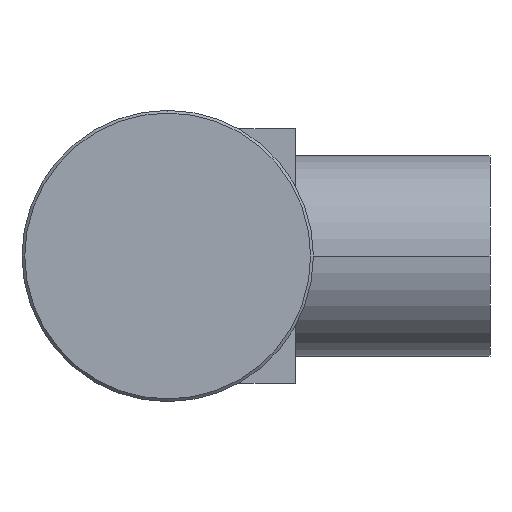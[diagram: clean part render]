
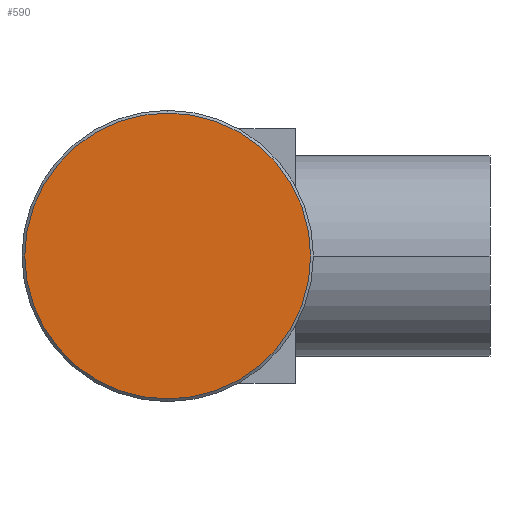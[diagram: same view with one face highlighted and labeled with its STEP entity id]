
A CAD part, left-side view. The second image highlights one B-rep face of the part: STEP entity #590.
In plain terms, the highlighted planar face has unit normal (-1, 0, 0).
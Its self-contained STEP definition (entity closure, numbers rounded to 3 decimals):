
#35 = AXIS2_PLACEMENT_3D ( 'NONE', #99, #909, #306 ) ;
#79 = EDGE_LOOP ( 'NONE', ( #839, #814 ) ) ;
#99 = CARTESIAN_POINT ( 'NONE',  ( 0., 0., 0. ) ) ;
#181 = VERTEX_POINT ( 'NONE', #1099 ) ;
#188 = CARTESIAN_POINT ( 'NONE',  ( 0., 0., 0. ) ) ;
#194 = CARTESIAN_POINT ( 'NONE',  ( 0., 0., 0. ) ) ;
#306 = DIRECTION ( 'NONE',  ( 0., 0., 1. ) ) ;
#325 = FACE_OUTER_BOUND ( 'NONE', #79, .T. ) ;
#373 = CARTESIAN_POINT ( 'NONE',  ( 0., 0., -15.7 ) ) ;
#508 = DIRECTION ( 'NONE',  ( 0., 0., 1. ) ) ;
#512 = DIRECTION ( 'NONE',  ( 0., 0., -1. ) ) ;
#529 = PLANE ( 'NONE',  #531 ) ;
#531 = AXIS2_PLACEMENT_3D ( 'NONE', #194, #926, #512 ) ;
#590 = ADVANCED_FACE ( 'NONE', ( #325 ), #529, .F. ) ;
#614 = CIRCLE ( 'NONE', #35, 15.7 ) ;
#785 = DIRECTION ( 'NONE',  ( -1., 0., 0. ) ) ;
#789 = VERTEX_POINT ( 'NONE', #373 ) ;
#814 = ORIENTED_EDGE ( 'NONE', *, *, #1019, .T. ) ;
#839 = ORIENTED_EDGE ( 'NONE', *, *, #1083, .T. ) ;
#909 = DIRECTION ( 'NONE',  ( -1., 0., 0. ) ) ;
#915 = AXIS2_PLACEMENT_3D ( 'NONE', #188, #785, #508 ) ;
#926 = DIRECTION ( 'NONE',  ( 1., 0., 0. ) ) ;
#1019 = EDGE_CURVE ( 'NONE', #181, #789, #1205, .T. ) ;
#1083 = EDGE_CURVE ( 'NONE', #789, #181, #614, .T. ) ;
#1099 = CARTESIAN_POINT ( 'NONE',  ( 0., 0., 15.7 ) ) ;
#1205 = CIRCLE ( 'NONE', #915, 15.7 ) ;
